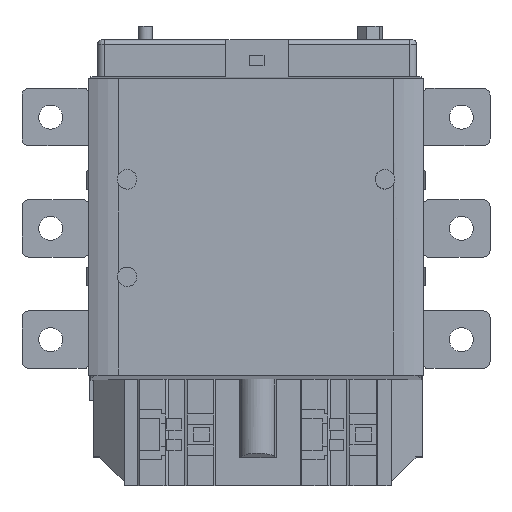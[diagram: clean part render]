
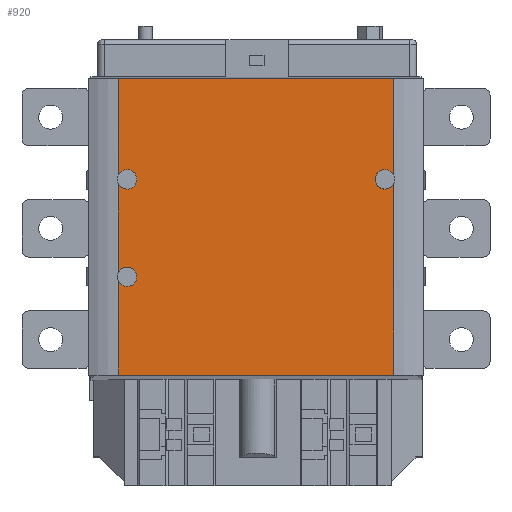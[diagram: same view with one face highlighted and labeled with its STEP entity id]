
A CAD part, top view. The second image highlights one B-rep face of the part: STEP entity #920.
In plain terms, the highlighted planar face has unit normal (0, 0, 1).
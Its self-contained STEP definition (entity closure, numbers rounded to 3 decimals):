
#250=FACE_OUTER_BOUND('',#2032,.T.);
#764=CIRCLE('',#10903,4.25);
#765=CIRCLE('',#10904,4.25);
#766=CIRCLE('',#10905,4.25);
#920=ADVANCED_FACE('',(#250),#1475,.T.);
#1475=PLANE('',#10906);
#2032=EDGE_LOOP('',(#2811,#2812,#2813,#2814,#2815,#2816,#2817,#2818,#2819,
#2820));
#2811=ORIENTED_EDGE('',*,*,#6860,.F.);
#2812=ORIENTED_EDGE('',*,*,#6842,.T.);
#2813=ORIENTED_EDGE('',*,*,#6861,.F.);
#2814=ORIENTED_EDGE('',*,*,#6862,.F.);
#2815=ORIENTED_EDGE('',*,*,#6863,.F.);
#2816=ORIENTED_EDGE('',*,*,#6864,.T.);
#2817=ORIENTED_EDGE('',*,*,#6865,.F.);
#2818=ORIENTED_EDGE('',*,*,#6866,.T.);
#2819=ORIENTED_EDGE('',*,*,#6867,.F.);
#2820=ORIENTED_EDGE('',*,*,#6868,.F.);
#5830=VERTEX_POINT('',#14748);
#5831=VERTEX_POINT('',#14750);
#5843=VERTEX_POINT('',#14784);
#5844=VERTEX_POINT('',#14786);
#5845=VERTEX_POINT('',#14788);
#5846=VERTEX_POINT('',#14790);
#5847=VERTEX_POINT('',#14792);
#5848=VERTEX_POINT('',#14794);
#5849=VERTEX_POINT('',#14796);
#5850=VERTEX_POINT('',#14798);
#6842=EDGE_CURVE('',#5831,#5830,#8355,.T.);
#6860=EDGE_CURVE('',#5831,#5843,#8372,.T.);
#6861=EDGE_CURVE('',#5844,#5830,#8373,.T.);
#6862=EDGE_CURVE('',#5845,#5844,#764,.T.);
#6863=EDGE_CURVE('',#5846,#5845,#8374,.T.);
#6864=EDGE_CURVE('',#5846,#5847,#8375,.T.);
#6865=EDGE_CURVE('',#5848,#5847,#8376,.T.);
#6866=EDGE_CURVE('',#5848,#5849,#765,.T.);
#6867=EDGE_CURVE('',#5850,#5849,#8377,.T.);
#6868=EDGE_CURVE('',#5843,#5850,#766,.T.);
#8355=LINE('',#14749,#9685);
#8372=LINE('',#14783,#9702);
#8373=LINE('',#14785,#9703);
#8374=LINE('',#14789,#9704);
#8375=LINE('',#14791,#9705);
#8376=LINE('',#14793,#9706);
#8377=LINE('',#14797,#9707);
#9685=VECTOR('',#11805,1.);
#9702=VECTOR('',#11832,1.);
#9703=VECTOR('',#11833,1.);
#9704=VECTOR('',#11836,1.);
#9705=VECTOR('',#11837,1.);
#9706=VECTOR('',#11838,1.);
#9707=VECTOR('',#11841,1.);
#10903=AXIS2_PLACEMENT_3D('',#14787,#11834,#11835);
#10904=AXIS2_PLACEMENT_3D('',#14795,#11839,#11840);
#10905=AXIS2_PLACEMENT_3D('',#14799,#11842,#11843);
#10906=AXIS2_PLACEMENT_3D('',#14800,#11844,#11845);
#11805=DIRECTION('',(1.,0.,0.));
#11832=DIRECTION('',(0.,1.,0.));
#11833=DIRECTION('',(0.,-1.,0.));
#11834=DIRECTION('',(0.,0.,1.));
#11835=DIRECTION('',(1.,0.,0.));
#11836=DIRECTION('',(0.,-1.,0.));
#11837=DIRECTION('',(-1.,0.,0.));
#11838=DIRECTION('',(0.,1.,0.));
#11839=DIRECTION('',(0.,0.,-1.));
#11840=DIRECTION('',(-1.,0.,0.));
#11841=DIRECTION('',(0.,1.,0.));
#11842=DIRECTION('',(0.,0.,1.));
#11843=DIRECTION('',(1.,0.,0.));
#11844=DIRECTION('',(0.,0.,1.));
#11845=DIRECTION('',(1.,0.,0.));
#14748=CARTESIAN_POINT('',(59.975,-64.053,0.));
#14749=CARTESIAN_POINT('',(59.975,-64.053,0.));
#14750=CARTESIAN_POINT('',(-59.975,-64.053,0.));
#14783=CARTESIAN_POINT('',(-59.975,70.,0.));
#14784=CARTESIAN_POINT('',(-59.975,-23.202,0.));
#14785=CARTESIAN_POINT('',(59.975,70.,0.));
#14786=CARTESIAN_POINT('',(59.975,19.298,0.));
#14787=CARTESIAN_POINT('',(56.2,21.25,0.));
#14788=CARTESIAN_POINT('',(59.975,23.202,0.));
#14789=CARTESIAN_POINT('',(59.975,70.,0.));
#14790=CARTESIAN_POINT('',(59.975,65.2,0.));
#14791=CARTESIAN_POINT('',(150.,65.2,0.));
#14792=CARTESIAN_POINT('',(-59.975,65.2,0.));
#14793=CARTESIAN_POINT('',(-59.975,70.,0.));
#14794=CARTESIAN_POINT('',(-59.975,23.202,0.));
#14795=CARTESIAN_POINT('',(-56.2,21.25,0.));
#14796=CARTESIAN_POINT('',(-59.975,19.298,0.));
#14797=CARTESIAN_POINT('',(-59.975,70.,0.));
#14798=CARTESIAN_POINT('',(-59.975,-19.298,0.));
#14799=CARTESIAN_POINT('',(-56.2,-21.25,0.));
#14800=CARTESIAN_POINT('',(59.975,70.,0.));
